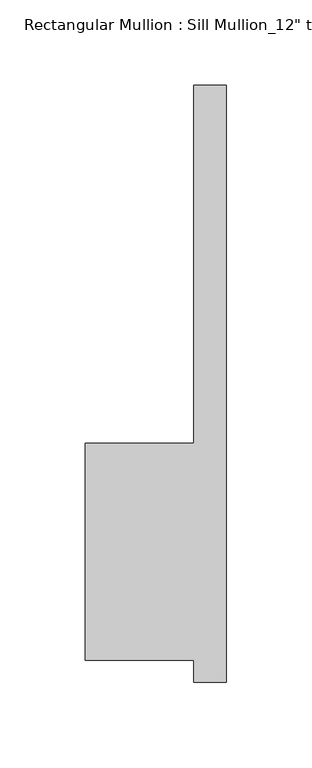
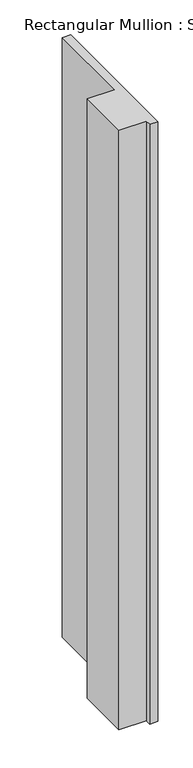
"""IFC4 building model written with IfcOpenShell, lengths in millimetres: member geometry."""

from ifc_helpers import new_model, si_unit, frame, origin, place, context, project, spatial, polyline, outline, extrude, source, transform, mapped, element, save


def member_ffa7ed6e(model_context):
    return source(origin(), model_context, "Body", "SweptSolid", [
        extrude(outline(polyline([(-82.55, 50.8), (-19.05, 50.8), (-19.05, 260.35), (0.0, 260.35), (0.0, -88.9), (-19.05, -88.9), (-19.05, -76.2), (-82.55, -76.2), (-82.55, 50.8)])), frame((0.0, 0.0, -1466.9009087), z_axis=(0.0, 0.0, 1.0), x_axis=(1.0, 0.0, 0.0)), (0.0, 0.0, 1.0), 1466.9009087),
    ])


if __name__ == "__main__":
    model = new_model("IFC4")
    model_context = context("Model", 3, world=origin())
    ifc_project = project(units=[si_unit("LENGTHUNIT", "METRE", prefix="MILLI")], contexts=[model_context])
    site = spatial("IfcSite", under=ifc_project)
    building = spatial("IfcBuilding", under=site)
    placement = place(None, origin())
    member_shape = member_ffa7ed6e(model_context)
    element("IfcMember", 1, ObjectType="Rectangular Mullion : Sill Mullion_12\" thick wall", at=placement, inside=building, context=model_context, shape_type="MappedRepresentation", body=[
        mapped(member_shape, transform((0.0, 0.0, 0.0), x_axis=(1.0, 0.0, 0.0), y_axis=(0.0, 1.0, 0.0), z_axis=(0.0, 0.0, 1.0))),
    ])
    save(model, "model.ifc")
